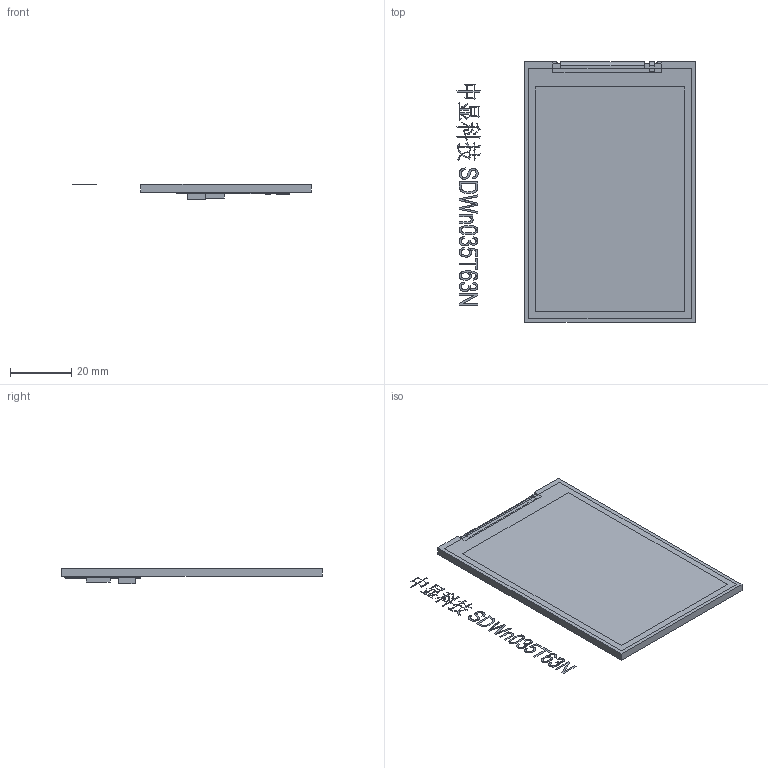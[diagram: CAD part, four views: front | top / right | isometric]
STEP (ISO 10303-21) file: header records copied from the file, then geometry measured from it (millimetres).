
FILE_DESCRIPTION(/* description */ (''),/* implementation_level */ '2;1');
FILE_NAME(/* name */ '3D_SDWn035T63N.stp',/* time_stamp */ '2020-07-31T16:14:48+08:00',/* author */ (''),/* organization */ (''),/* preprocessor_version */ 'ST-DEVELOPER v15',/* originating_system */ 'SIEMENS PLM Software NX 8.5',/* authorisation */ '');
FILE_SCHEMA (('AP203_CONFIGURATION_CONTROLLED_3D_DESIGN_OF_MECHANICAL_PARTS_AND_ASSEMBLIES_MIM_LF { 1 0 10303 403 2 1 2}'));
Length unit declared in the file: millimetre
Products named in the file (1): 3.5
Bounding box: 77.93 x 85.04 x 4.96 mm (x, y, z)
Volume: 30219 mm3; surface area: 30859 mm2
Topology: 102 solids, 102 shells, 845 faces, 1919 edges, 1278 vertices
Faces by surface type: plane 737, extrusion 90, cylinder 18
Entity records: 29119 total; most frequent: CARTESIAN_POINT 6965, ORIENTED_EDGE 3838, DIRECTION 3025, EDGE_CURVE 1919, VECTOR 1441, LINE 1351, VERTEX_POINT 1278, EDGE_LOOP 861
